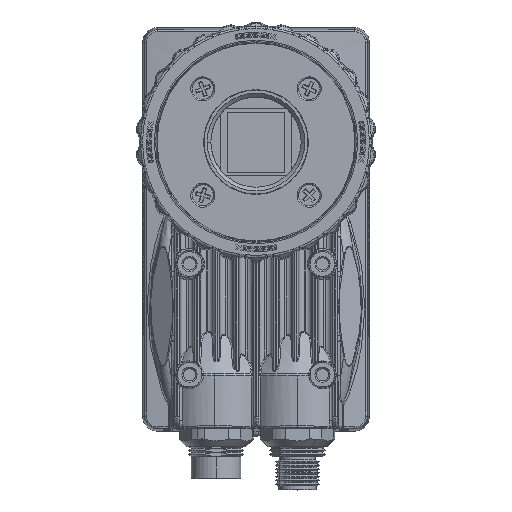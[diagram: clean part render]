
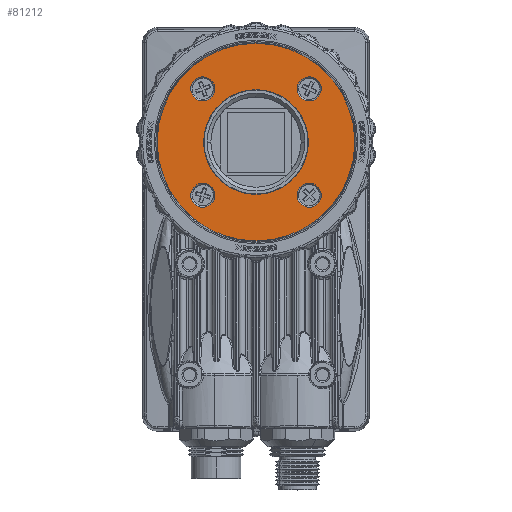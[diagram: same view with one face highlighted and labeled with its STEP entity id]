
A CAD part, top view. The second image highlights one B-rep face of the part: STEP entity #81212.
In plain terms, the highlighted planar face has unit normal (0, 0, 1).
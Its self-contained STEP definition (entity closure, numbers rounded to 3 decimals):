
#695 = CIRCLE ( 'NONE', #132689, 3.25 ) ;
#698 = CIRCLE ( 'NONE', #132692, 26.754 ) ;
#701 = CIRCLE ( 'NONE', #132693, 3.25 ) ;
#703 = CIRCLE ( 'NONE', #132694, 3.25 ) ;
#704 = CIRCLE ( 'NONE', #132691, 14.175 ) ;
#707 = CIRCLE ( 'NONE', #132699, 3.25 ) ;
#3678 = CARTESIAN_POINT ( 'NONE',  ( 14.4, 38.012, 28.251 ) ) ;
#3683 = CARTESIAN_POINT ( 'NONE',  ( 0., 23.612, 28.251 ) ) ;
#3684 = DIRECTION ( 'NONE',  ( 0., 0., 1. ) ) ;
#3685 = DIRECTION ( 'NONE',  ( 0., 1., 0. ) ) ;
#3691 = CARTESIAN_POINT ( 'NONE',  ( 14.4, 9.212, 28.251 ) ) ;
#3692 = DIRECTION ( 'NONE',  ( 0., 0., 1. ) ) ;
#3693 = DIRECTION ( 'NONE',  ( 0., 1., 0. ) ) ;
#3698 = CARTESIAN_POINT ( 'NONE',  ( -14.4, 9.212, 28.251 ) ) ;
#3699 = DIRECTION ( 'NONE',  ( 0., 0., 1. ) ) ;
#3700 = DIRECTION ( 'NONE',  ( 0., 1., 0. ) ) ;
#3705 = CARTESIAN_POINT ( 'NONE',  ( -14.4, 38.012, 28.251 ) ) ;
#3706 = DIRECTION ( 'NONE',  ( 0., 0., 1. ) ) ;
#3707 = DIRECTION ( 'NONE',  ( 0., 1., 0. ) ) ;
#3708 = CARTESIAN_POINT ( 'NONE',  ( 0., 23.612, 28.251 ) ) ;
#3709 = DIRECTION ( 'NONE',  ( 0., 0., 1. ) ) ;
#3710 = DIRECTION ( 'NONE',  ( 0., 1., 0. ) ) ;
#3718 = DIRECTION ( 'NONE',  ( 0., 0., 1. ) ) ;
#3719 = DIRECTION ( 'NONE',  ( 0., 1., 0. ) ) ;
#29782 = AXIS2_PLACEMENT_3D ( 'NONE', #37374, #37391, #37392 ) ;
#32327 = FACE_BOUND ( 'NONE', #104607, .T. ) ;
#32378 = FACE_OUTER_BOUND ( 'NONE', #104558, .T. ) ;
#32381 = FACE_BOUND ( 'NONE', #104605, .T. ) ;
#32385 = FACE_BOUND ( 'NONE', #104598, .T. ) ;
#32388 = FACE_BOUND ( 'NONE', #104601, .T. ) ;
#32390 = FACE_BOUND ( 'NONE', #104603, .T. ) ;
#32945 = CARTESIAN_POINT ( 'NONE',  ( 14.4, 5.962, 28.251 ) ) ;
#32947 = CARTESIAN_POINT ( 'NONE',  ( 14.4, 12.462, 28.251 ) ) ;
#32955 = CARTESIAN_POINT ( 'NONE',  ( -14.4, 34.762, 28.251 ) ) ;
#32957 = CARTESIAN_POINT ( 'NONE',  ( -14.4, 41.262, 28.251 ) ) ;
#32965 = CARTESIAN_POINT ( 'NONE',  ( 14.4, 34.762, 28.251 ) ) ;
#32967 = CARTESIAN_POINT ( 'NONE',  ( 14.4, 41.262, 28.251 ) ) ;
#32975 = CARTESIAN_POINT ( 'NONE',  ( -14.4, 5.962, 28.251 ) ) ;
#32977 = CARTESIAN_POINT ( 'NONE',  ( -14.4, 12.462, 28.251 ) ) ;
#33019 = CARTESIAN_POINT ( 'NONE',  ( 0., 37.787, 28.251 ) ) ;
#33020 = CARTESIAN_POINT ( 'NONE',  ( 0., 9.437, 28.251 ) ) ;
#33031 = CARTESIAN_POINT ( 'NONE',  ( 0., -3.142, 28.251 ) ) ;
#33033 = CARTESIAN_POINT ( 'NONE',  ( 0., 50.366, 28.251 ) ) ;
#37374 = CARTESIAN_POINT ( 'NONE',  ( 0., 23.612, 28.251 ) ) ;
#37376 = PLANE ( 'NONE',  #29782 ) ;
#37391 = DIRECTION ( 'NONE',  ( 0., 0., 1. ) ) ;
#37392 = DIRECTION ( 'NONE',  ( 0., 1., 0. ) ) ;
#38305 = AXIS2_PLACEMENT_3D ( 'NONE', #54645, #54653, #54655 ) ;
#39676 = AXIS2_PLACEMENT_3D ( 'NONE', #82053, #82059, #82060 ) ;
#54645 = CARTESIAN_POINT ( 'NONE',  ( 0., 23.612, 28.251 ) ) ;
#54653 = DIRECTION ( 'NONE',  ( 0., 0., 1. ) ) ;
#54655 = DIRECTION ( 'NONE',  ( 0., 1., 0. ) ) ;
#58287 = CIRCLE ( 'NONE', #38305, 26.754 ) ;
#73205 = CIRCLE ( 'NONE', #39676, 3.25 ) ;
#74979 = AXIS2_PLACEMENT_3D ( 'NONE', #99189, #99246, #99248 ) ;
#75014 = AXIS2_PLACEMENT_3D ( 'NONE', #99592, #99602, #99604 ) ;
#78940 = EDGE_CURVE ( 'NONE', #173623, #173621, #695, .T. ) ;
#78943 = EDGE_CURVE ( 'NONE', #173690, #173689, #698, .T. ) ;
#78945 = EDGE_CURVE ( 'NONE', #173604, #173602, #701, .T. ) ;
#78948 = EDGE_CURVE ( 'NONE', #173613, #173612, #703, .T. ) ;
#78949 = EDGE_CURVE ( 'NONE', #173676, #173674, #704, .T. ) ;
#78952 = EDGE_CURVE ( 'NONE', #173632, #173630, #707, .T. ) ;
#81212 = ADVANCED_FACE ( 'NONE', ( #32378, #32385, #32388, #32390, #32381, #32327 ), #37376, .T. ) ;
#82053 = CARTESIAN_POINT ( 'NONE',  ( -14.4, 38.012, 28.251 ) ) ;
#82059 = DIRECTION ( 'NONE',  ( 0., 0., 1. ) ) ;
#82060 = DIRECTION ( 'NONE',  ( 0., 1., 0. ) ) ;
#91276 = CIRCLE ( 'NONE', #74979, 3.25 ) ;
#91546 = CIRCLE ( 'NONE', #75014, 3.25 ) ;
#95806 = ORIENTED_EDGE ( 'NONE', *, *, #78943, .T. ) ;
#95807 = ORIENTED_EDGE ( 'NONE', *, *, #164952, .T. ) ;
#95808 = ORIENTED_EDGE ( 'NONE', *, *, #78945, .F. ) ;
#95809 = ORIENTED_EDGE ( 'NONE', *, *, #166771, .F. ) ;
#95810 = ORIENTED_EDGE ( 'NONE', *, *, #78948, .F. ) ;
#95811 = ORIENTED_EDGE ( 'NONE', *, *, #165407, .F. ) ;
#95812 = ORIENTED_EDGE ( 'NONE', *, *, #78952, .F. ) ;
#95813 = ORIENTED_EDGE ( 'NONE', *, *, #97985, .F. ) ;
#95814 = ORIENTED_EDGE ( 'NONE', *, *, #78940, .F. ) ;
#95815 = ORIENTED_EDGE ( 'NONE', *, *, #97827, .F. ) ;
#95816 = ORIENTED_EDGE ( 'NONE', *, *, #166338, .F. ) ;
#95817 = ORIENTED_EDGE ( 'NONE', *, *, #78949, .F. ) ;
#97827 = EDGE_CURVE ( 'NONE', #173621, #173623, #91276, .T. ) ;
#97985 = EDGE_CURVE ( 'NONE', #173630, #173632, #91546, .T. ) ;
#99189 = CARTESIAN_POINT ( 'NONE',  ( 14.4, 38.012, 28.251 ) ) ;
#99246 = DIRECTION ( 'NONE',  ( 0., 0., 1. ) ) ;
#99248 = DIRECTION ( 'NONE',  ( 0., 1., 0. ) ) ;
#99592 = CARTESIAN_POINT ( 'NONE',  ( -14.4, 9.212, 28.251 ) ) ;
#99602 = DIRECTION ( 'NONE',  ( 0., 0., 1. ) ) ;
#99604 = DIRECTION ( 'NONE',  ( 0., 1., 0. ) ) ;
#104558 = EDGE_LOOP ( 'NONE', ( #95806, #95807 ) ) ;
#104598 = EDGE_LOOP ( 'NONE', ( #95808, #95809 ) ) ;
#104601 = EDGE_LOOP ( 'NONE', ( #95810, #95811 ) ) ;
#104603 = EDGE_LOOP ( 'NONE', ( #95812, #95813 ) ) ;
#104605 = EDGE_LOOP ( 'NONE', ( #95814, #95815 ) ) ;
#104607 = EDGE_LOOP ( 'NONE', ( #95816, #95817 ) ) ;
#114628 = AXIS2_PLACEMENT_3D ( 'NONE', #139100, #139105, #139108 ) ;
#132689 = AXIS2_PLACEMENT_3D ( 'NONE', #3678, #3684, #3685 ) ;
#132691 = AXIS2_PLACEMENT_3D ( 'NONE', #3708, #3709, #3710 ) ;
#132692 = AXIS2_PLACEMENT_3D ( 'NONE', #3683, #3692, #3693 ) ;
#132693 = AXIS2_PLACEMENT_3D ( 'NONE', #3691, #3699, #3700 ) ;
#132694 = AXIS2_PLACEMENT_3D ( 'NONE', #3705, #3706, #3707 ) ;
#132699 = AXIS2_PLACEMENT_3D ( 'NONE', #3698, #3718, #3719 ) ;
#139100 = CARTESIAN_POINT ( 'NONE',  ( 0., 23.612, 28.251 ) ) ;
#139105 = DIRECTION ( 'NONE',  ( 0., 0., 1. ) ) ;
#139108 = DIRECTION ( 'NONE',  ( 0., 1., 0. ) ) ;
#141482 = CIRCLE ( 'NONE', #114628, 14.175 ) ;
#150266 = CARTESIAN_POINT ( 'NONE',  ( 14.4, 9.212, 28.251 ) ) ;
#150269 = DIRECTION ( 'NONE',  ( 0., 0., 1. ) ) ;
#150271 = DIRECTION ( 'NONE',  ( 0., 1., 0. ) ) ;
#150979 = AXIS2_PLACEMENT_3D ( 'NONE', #150266, #150269, #150271 ) ;
#154373 = CIRCLE ( 'NONE', #150979, 3.25 ) ;
#164952 = EDGE_CURVE ( 'NONE', #173689, #173690, #58287, .T. ) ;
#165407 = EDGE_CURVE ( 'NONE', #173612, #173613, #73205, .T. ) ;
#166338 = EDGE_CURVE ( 'NONE', #173674, #173676, #141482, .T. ) ;
#166771 = EDGE_CURVE ( 'NONE', #173602, #173604, #154373, .T. ) ;
#173602 = VERTEX_POINT ( 'NONE', #32945 ) ;
#173604 = VERTEX_POINT ( 'NONE', #32947 ) ;
#173612 = VERTEX_POINT ( 'NONE', #32955 ) ;
#173613 = VERTEX_POINT ( 'NONE', #32957 ) ;
#173621 = VERTEX_POINT ( 'NONE', #32965 ) ;
#173623 = VERTEX_POINT ( 'NONE', #32967 ) ;
#173630 = VERTEX_POINT ( 'NONE', #32975 ) ;
#173632 = VERTEX_POINT ( 'NONE', #32977 ) ;
#173674 = VERTEX_POINT ( 'NONE', #33019 ) ;
#173676 = VERTEX_POINT ( 'NONE', #33020 ) ;
#173689 = VERTEX_POINT ( 'NONE', #33031 ) ;
#173690 = VERTEX_POINT ( 'NONE', #33033 ) ;
